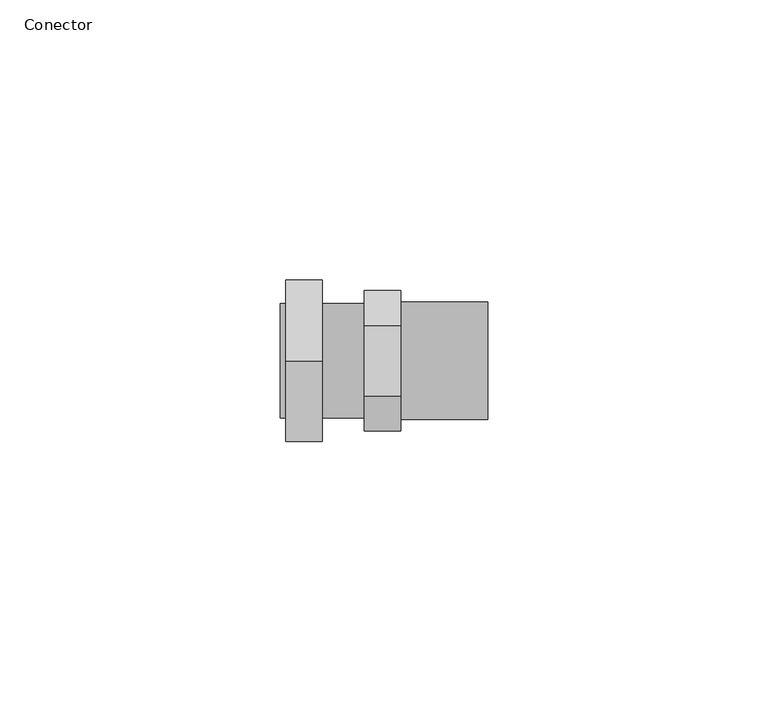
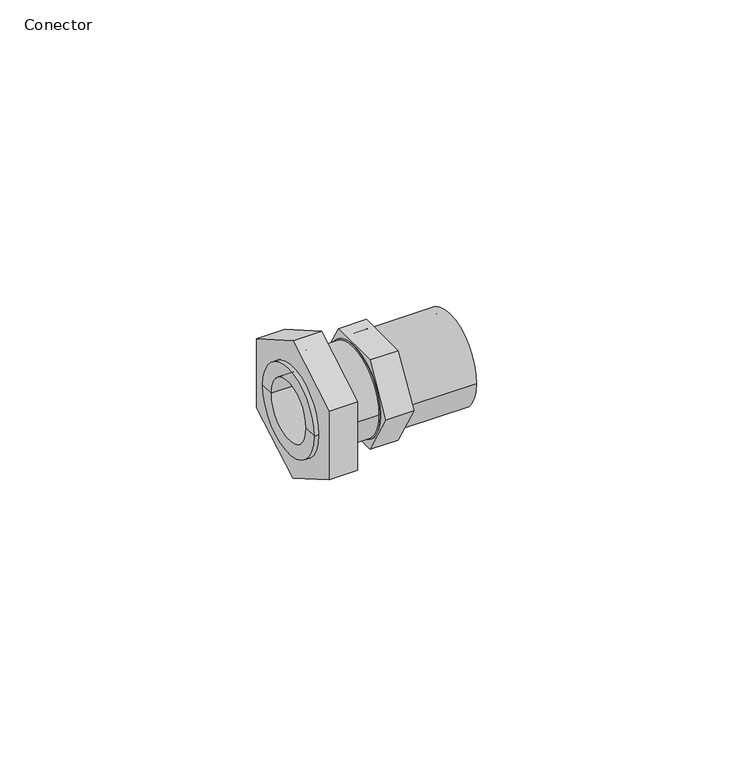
"""IFC4 building model written with IfcOpenShell, lengths in millimetres: cable carrier fitting geometry, AmancoWavin_Unionesdetubería_ConduitConector : Conector."""

from ifc_helpers import new_model, si_unit, point, frame, origin, origin_2d, place, context, project, spatial, polyline, circle_curve, trimmed, segment, composite_curve, outline, extrude, source, transform, mapped, element, save
from ifc_brep_helpers import plane_surface, cylinder_surface, revolved_surface, advanced_brep


def conector_313dfdba(model_context):
    return source(origin(), model_context, "Body", "SolidModel", [
        extrude(outline(polyline([(-12.495, 0.0), (-6.2475, 10.8209874), (6.2475, 10.8209874), (12.495, 0.0), (6.2475, -10.8209874), (-6.2475, -10.8209874), (-12.495, 0.0)]), holes=[composite_curve([segment(trimmed(circle_curve(origin_2d(), 10.5), [point((-10.5, 0.0))], [point((10.5, 0.0))], True, "CARTESIAN"), True, "CONTINUOUS"), segment(trimmed(circle_curve(origin_2d(), 10.5), [point((10.5, 0.0))], [point((-10.5, 0.0))], True, "CARTESIAN"), True, "CONTINUOUS")], self_intersect=False)]), frame((0.0, 0.0, 0.0), z_axis=(1.0, 0.0, 0.0), x_axis=(0.0, 1.0, 0.0)), (0.0, 0.0, 1.0), 6.5),
        advanced_brep(
        [(0.0, -10.5, 0.0), (0.0, 10.5, 0.0), (22.0, 10.5, 0.0), (22.0, -10.5, 0.0), (0.0, -9.0, 0.0), (0.0, 9.0, 0.0), (22.0, -9.0, 0.0), (22.0, 9.0, 0.0)],
        [
            (0, 1, circle_curve(frame((0.0, 0.0, 0.0), z_axis=(1.0, 0.0, 0.0), x_axis=(0.0, 1.0, 0.0)), 10.5)),
            (1, 2),
            (2, 3, circle_curve(frame((22.0, 0.0, 0.0), z_axis=(-1.0, 0.0, 0.0), x_axis=(0.0, 1.0, 0.0)), 10.5)),
            (3, 0),
            (1, 0, circle_curve(frame((0.0, 0.0, 0.0), z_axis=(1.0, 0.0, 0.0), x_axis=(0.0, 1.0, 0.0)), 10.5)),
            (3, 2, circle_curve(frame((22.0, 0.0, 0.0), z_axis=(-1.0, 0.0, 0.0), x_axis=(0.0, 1.0, 0.0)), 10.5)),
            (4, 5, circle_curve(frame((0.0, 0.0, 0.0), z_axis=(1.0, 0.0, 0.0), x_axis=(0.0, 1.0, 0.0)), 9.0)),
            (5, 1),
            (0, 4),
            (5, 4, circle_curve(frame((0.0, 0.0, 0.0), z_axis=(1.0, 0.0, 0.0), x_axis=(0.0, 1.0, 0.0)), 9.0)),
            (6, 7, circle_curve(frame((22.0, 0.0, 0.0), z_axis=(1.0, 0.0, 0.0), x_axis=(0.0, 1.0, 0.0)), 9.0)),
            (7, 5),
            (4, 6),
            (7, 6, circle_curve(frame((22.0, 0.0, 0.0), z_axis=(1.0, 0.0, 0.0), x_axis=(0.0, 1.0, 0.0)), 9.0)),
            (2, 7),
            (6, 3),
        ],
        [
            cylinder_surface(frame((1999.5, 0.0, 0.0), z_axis=(-1.0, 0.0, 0.0), x_axis=(0.0, 1.0, 0.0)), 10.5),
            plane_surface(frame((0.0, 0.0, 0.0), z_axis=(-1.0, 0.0, 0.0), x_axis=(0.0, 1.0, 0.0))),
            revolved_surface(polyline([(0.0, 9.0, 0.0), (22.0, 9.0, 0.0)]), (1999.5, 0.0, 0.0), (-1.0, 0.0, 0.0)),
            plane_surface(frame((22.0, 0.0, 0.0), z_axis=(1.0, 0.0, 0.0), x_axis=(0.0, 1.0, 0.0))),
        ],
        [
            (0, [[1, 2, 3, 4]]),
            (0, [[5, -4, 6, -2]]),
            (1, [[7, 8, -1, 9]]),
            (1, [[10, -9, -5, -8]]),
            (2, [[11, 12, -7, 13]]),
            (2, [[14, -13, -10, -12]]),
            (3, [[-3, 15, -11, 16]]),
            (3, [[-6, -16, -14, -15]]),
        ],
    ),
        extrude(outline(polyline([(14.3976723, 8.3125), (14.3976723, -8.3125), (0.0, -16.625), (-14.3976723, -8.3125), (-14.3976723, 8.3125), (0.0, 16.625), (14.3976723, 8.3125)]), holes=[composite_curve([segment(trimmed(circle_curve(origin_2d(), 10.25), [point((-10.25, 0.0))], [point((10.25, 0.0))], True, "CARTESIAN"), True, "CONTINUOUS"), segment(trimmed(circle_curve(origin_2d(), 10.25), [point((10.25, 0.0))], [point((-10.25, 0.0))], True, "CARTESIAN"), True, "CONTINUOUS")], self_intersect=False)]), frame((-14.0, 0.0, 0.0), z_axis=(1.0, 0.0, 0.0), x_axis=(0.0, 1.0, 0.0)), (0.0, 0.0, 1.0), 6.5),
        advanced_brep(
        [(-15.0, -10.25, 0.0), (-15.0, 10.25, 0.0), (0.0, 10.25, 0.0), (0.0, -10.25, 0.0), (-15.0, -7.0, 0.0), (-15.0, 7.0, 0.0), (0.0, -7.0, 0.0), (0.0, 7.0, 0.0)],
        [
            (0, 1, circle_curve(frame((-15.0, 0.0, 0.0), z_axis=(1.0, 0.0, 0.0), x_axis=(0.0, 1.0, 0.0)), 10.25)),
            (1, 2),
            (2, 3, circle_curve(frame((0.0, 0.0, 0.0), z_axis=(-1.0, 0.0, 0.0), x_axis=(0.0, 1.0, 0.0)), 10.25)),
            (3, 0),
            (1, 0, circle_curve(frame((-15.0, 0.0, 0.0), z_axis=(1.0, 0.0, 0.0), x_axis=(0.0, 1.0, 0.0)), 10.25)),
            (3, 2, circle_curve(frame((0.0, 0.0, 0.0), z_axis=(-1.0, 0.0, 0.0), x_axis=(0.0, 1.0, 0.0)), 10.25)),
            (4, 5, circle_curve(frame((-15.0, 0.0, 0.0), z_axis=(1.0, 0.0, 0.0), x_axis=(0.0, 1.0, 0.0)), 7.0)),
            (5, 1),
            (0, 4),
            (5, 4, circle_curve(frame((-15.0, 0.0, 0.0), z_axis=(1.0, 0.0, 0.0), x_axis=(0.0, 1.0, 0.0)), 7.0)),
            (6, 7, circle_curve(frame((0.0, 0.0, 0.0), z_axis=(1.0, 0.0, 0.0), x_axis=(0.0, 1.0, 0.0)), 7.0)),
            (7, 5),
            (4, 6),
            (7, 6, circle_curve(frame((0.0, 0.0, 0.0), z_axis=(1.0, 0.0, 0.0), x_axis=(0.0, 1.0, 0.0)), 7.0)),
            (2, 7),
            (6, 3),
        ],
        [
            cylinder_surface(frame((1998.5, 0.0, 0.0), z_axis=(-1.0, 0.0, 0.0), x_axis=(0.0, 1.0, 0.0)), 10.25),
            plane_surface(frame((-15.0, 0.0, 0.0), z_axis=(-1.0, 0.0, 0.0), x_axis=(0.0, 1.0, 0.0))),
            revolved_surface(polyline([(-15.0, 7.0, 0.0), (0.0, 7.0, 0.0)]), (1998.5, 0.0, 0.0), (-1.0, 0.0, 0.0)),
            plane_surface(frame((0.0, 0.0, 0.0), z_axis=(1.0, 0.0, 0.0), x_axis=(0.0, 1.0, 0.0))),
        ],
        [
            (0, [[1, 2, 3, 4]]),
            (0, [[5, -4, 6, -2]]),
            (1, [[7, 8, -1, 9]]),
            (1, [[10, -9, -5, -8]]),
            (2, [[11, 12, -7, 13]]),
            (2, [[14, -13, -10, -12]]),
            (3, [[-3, 15, -11, 16]]),
            (3, [[-6, -16, -14, -15]]),
        ],
    ),
    ])


if __name__ == "__main__":
    model = new_model("IFC4")
    model_context = context("Model", 3, world=origin())
    ifc_project = project(units=[si_unit("LENGTHUNIT", "METRE", prefix="MILLI")], contexts=[model_context])
    site = spatial("IfcSite", under=ifc_project)
    building = spatial("IfcBuilding", under=site)
    placement = place(None, origin())
    conector_shape = conector_313dfdba(model_context)
    element("IfcCableCarrierFitting", 1, ObjectType="AmancoWavin_Unionesdetubería_ConduitConector : Conector", at=placement, inside=building, context=model_context, shape_type="MappedRepresentation", body=[
        mapped(conector_shape, transform((0.0, 0.0, 0.0), x_axis=(1.0, 0.0, 0.0), y_axis=(0.0, 1.0, 0.0), z_axis=(0.0, 0.0, 1.0))),
    ])
    save(model, "model.ifc")
